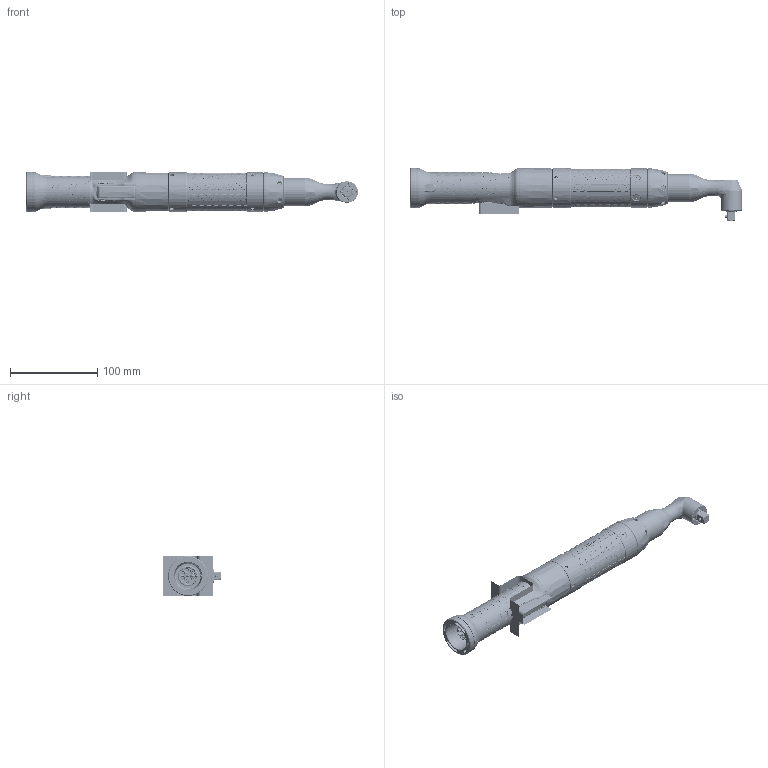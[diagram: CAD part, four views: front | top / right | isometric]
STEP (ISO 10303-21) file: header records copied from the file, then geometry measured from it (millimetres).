
FILE_DESCRIPTION((''),'2;1');
FILE_NAME('30EAN12EA3_ASM','2019-02-18T',('QC717'),(''),'CREO PARAMETRIC BY PTC INC, 2016130','CREO PARAMETRIC BY PTC INC, 2016130','');
FILE_SCHEMA(('CONFIG_CONTROL_DESIGN'));
Products named in the file (164): 3D_WIRES; 961558PT; 961692PT; 961565PT_DUP; 961564PT; 961575PT; 961559PT_DUP; 961667PT; SHR-09V-S-B; 119625-T-_61_253__KONTAKTST_DUP; 961557PT; ETHERNET_CONN; 961557PT_ASM; 7908-0101-XX; AD22151; XE18235; XE18236; SM12B-SRSS-TB; BM09B-SRSS-TB; BM02B-SRSS-TB; 527451297; CAPACITOR; 11020FL210014-XX; SRU3028-100Y; 0420CDMCBDS-220MC; GRM32ER71H106KA12; 525591652; D303; D201; D305; 8817-0101-XX_ASM; 961668PT_ASM; 863454_INSTALLED; SHR-12V-S-B; 961594PT; 961594PT_DUP_ASM; 207903PT; 207904PT; 207906PT; PCB2033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
Assembly tree (223 placements, depth 7):
  30EAN12EA3_ASM
    302089PT_ASM
      302068PT_ASM
        3D_WIRES
        961558PT
        961692PT
        961565PT_DUP  x4
        961564PT
        961575PT
        961559PT_DUP
        961667PT
        961557PT_ASM
          SHR-09V-S-B
          119625-T-_61_253__KONTAKTST_DUP  x2
          961557PT
          ETHERNET_CONN
        961668PT_ASM
          8817-0101-XX_ASM
            7908-0101-XX
            AD22151  x4
            XE18235
            XE18236
            SM12B-SRSS-TB
            BM09B-SRSS-TB
            BM02B-SRSS-TB
            527451297
            CAPACITOR  x2
            11020FL210014-XX
            SRU3028-100Y  x2
            0420CDMCBDS-220MC
            GRM32ER71H106KA12
            525591652
            D303
            D201  x2
            D305
        863454_INSTALLED
        961594PT_DUP_ASM
          SHR-12V-S-B  x2
          961594PT
        207903PT
        207904PT
        207905PT_INST_ASM
          207906PT
          PCB2033_INST_ASM
            PCB2033
            PCA9624BS_STIFFENER  x2
            PCA9624BS
            CAT24C256
            BUZZER_DUP
            XZFBB81FS  x16
            CLM3ABK  x2
          207907PT_OBS_ASM
            207907PT
            208867PT
            208868PT
          207908PT_INSTALLED
        207967PT_INSTALLED
        207964PT
        207925PT
        207949PT
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Bounding box: 380 x 65.62 x 45.55 mm (x, y, z)
Volume: 303016.8 mm3; surface area: 360204.4 mm2
Topology: 236 solids, 269 shells, 18409 faces, 48627 edges, 30851 vertices
Faces by surface type: plane 8066, cylinder 4558, bspline 2320, extrusion 1341, cone 1104, torus 835, sphere 149, revolution 36
Entity records: 697049 total; most frequent: CARTESIAN_POINT 308566, ORIENTED_EDGE 85666, DIRECTION 72587, EDGE_CURVE 42932, VERTEX_POINT 27246, AXIS2_PLACEMENT_3D 24957, VECTOR 22639, LINE 21438
